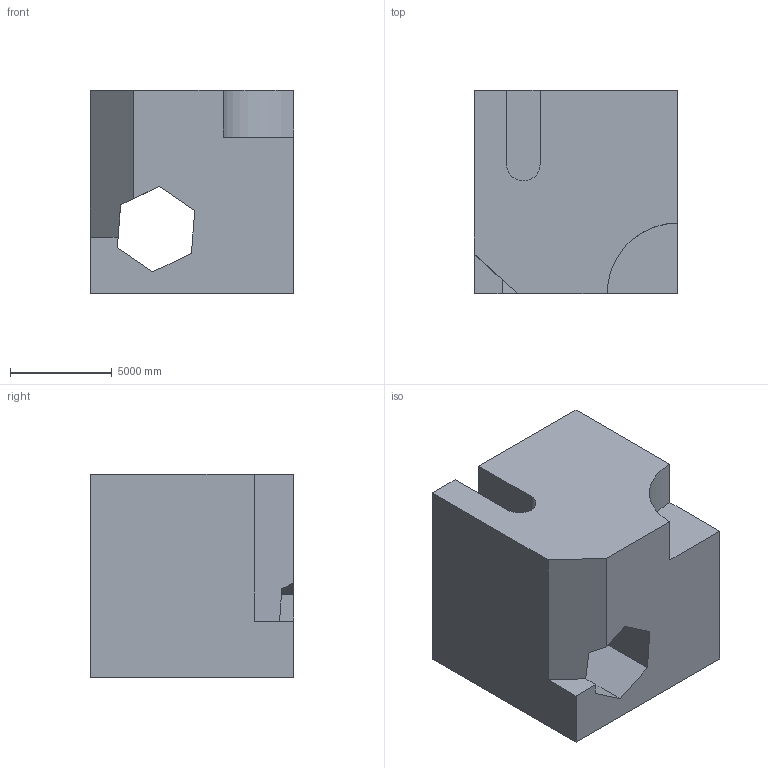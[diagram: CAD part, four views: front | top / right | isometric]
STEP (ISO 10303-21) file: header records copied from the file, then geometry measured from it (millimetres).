
FILE_DESCRIPTION (( 'STEP AP203' ), '1' );
FILE_NAME ('264.STEP', '2022-09-07T12:30:41', ( 'user' ), ( '' ), 'SwSTEP 2.0', 'SolidWorks 2021', '' );
FILE_SCHEMA (( 'CONFIG_CONTROL_DESIGN' ));
Length unit declared in the file: centimetre
Products named in the file (1): 264
Bounding box: 10000 x 10000 x 10000 mm (x, y, z)
Volume: 819744604660.3 mm3; surface area: 722639198.5 mm2
Topology: 1 solids, 1 shells, 20 faces, 57 edges, 38 vertices
Faces by surface type: plane 18, cylinder 2
Entity records: 726 total; most frequent: CARTESIAN_POINT 116, ORIENTED_EDGE 114, DIRECTION 103, EDGE_CURVE 57, LINE 53, VECTOR 53, VERTEX_POINT 38, AXIS2_PLACEMENT_3D 25
